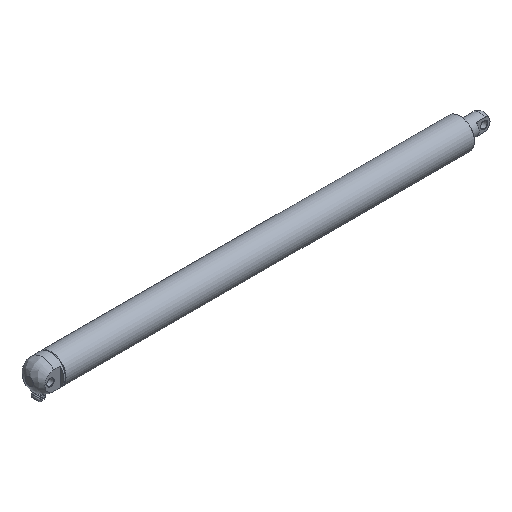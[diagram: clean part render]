
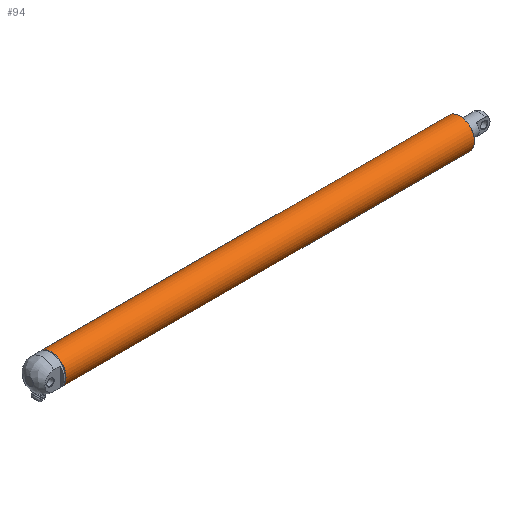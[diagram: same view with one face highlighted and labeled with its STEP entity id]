
A CAD part, isometric view. The second image highlights one B-rep face of the part: STEP entity #94.
In plain terms, the highlighted cylindrical face has radius 22.5 mm (diameter 45 mm), a full revolution.
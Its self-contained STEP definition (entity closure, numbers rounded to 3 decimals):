
#94 = ADVANCED_FACE( '', ( #243, #244 ), #245, .T. );
#243 = FACE_OUTER_BOUND( '', #471, .T. );
#244 = FACE_OUTER_BOUND( '', #472, .T. );
#245 = CYLINDRICAL_SURFACE( '', #473, 22.5 );
#471 = EDGE_LOOP( '', ( #773 ) );
#472 = EDGE_LOOP( '', ( #774 ) );
#473 = AXIS2_PLACEMENT_3D( '', #775, #776, #777 );
#773 = ORIENTED_EDGE( '', *, *, #1276, .T. );
#774 = ORIENTED_EDGE( '', *, *, #1277, .T. );
#775 = CARTESIAN_POINT( '', ( 623., 0., 0. ) );
#776 = DIRECTION( '', ( 1., 0., 0. ) );
#777 = DIRECTION( '', ( 0., 0., 1. ) );
#1276 = EDGE_CURVE( '', #1481, #1481, #1482, .F. );
#1277 = EDGE_CURVE( '', #1483, #1483, #1484, .T. );
#1481 = VERTEX_POINT( '', #1779 );
#1482 = CIRCLE( '', #1780, 22.5 );
#1483 = VERTEX_POINT( '', #1781 );
#1484 = CIRCLE( '', #1782, 22.5 );
#1779 = CARTESIAN_POINT( '', ( 0.5, 0., 22.5 ) );
#1780 = AXIS2_PLACEMENT_3D( '', #2372, #2373, #2374 );
#1781 = CARTESIAN_POINT( '', ( 622.5, 0., 22.5 ) );
#1782 = AXIS2_PLACEMENT_3D( '', #2375, #2376, #2377 );
#2372 = CARTESIAN_POINT( '', ( 0.5, 0., 0. ) );
#2373 = DIRECTION( '', ( -1., 0., 0. ) );
#2374 = DIRECTION( '', ( 0., 0., 1. ) );
#2375 = CARTESIAN_POINT( '', ( 622.5, 0., 0. ) );
#2376 = DIRECTION( '', ( -1., 0., 0. ) );
#2377 = DIRECTION( '', ( 0., 0., 1. ) );
